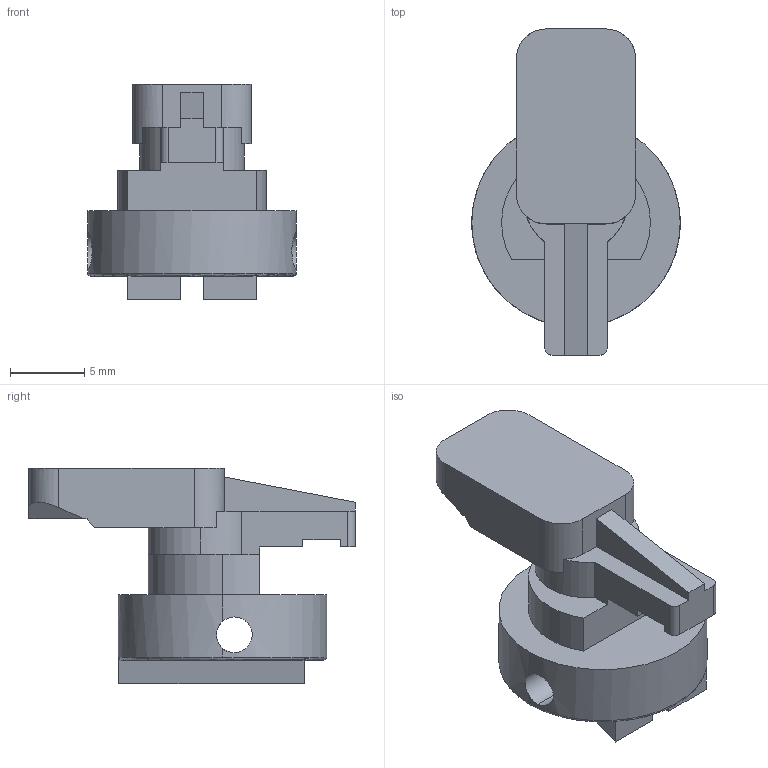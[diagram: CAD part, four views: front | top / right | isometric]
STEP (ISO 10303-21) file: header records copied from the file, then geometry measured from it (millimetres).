
FILE_DESCRIPTION (( 'STEP AP214' ), '1' );
FILE_NAME ('4.417.001.01.STEP', '2010-03-19T15:35:52', ( '£ukaszC' ), ( '' ), 'SwSTEP 2.0', 'SolidWorks 2008', '' );
FILE_SCHEMA (( 'AUTOMOTIVE_DESIGN' ));
Length unit declared in the file: millimetre
Products named in the file (1): 4.417.001.01
Bounding box: 14 x 21.9 x 14.5 mm (x, y, z)
Volume: 1404.3 mm3; surface area: 1207.3 mm2
Topology: 1 solids, 1 shells, 58 faces, 163 edges, 106 vertices
Faces by surface type: plane 38, cylinder 16, torus 4
Entity records: 1977 total; most frequent: CARTESIAN_POINT 452, ORIENTED_EDGE 326, DIRECTION 304, EDGE_CURVE 163, VERTEX_POINT 106, VECTOR 104, LINE 104, AXIS2_PLACEMENT_3D 100
